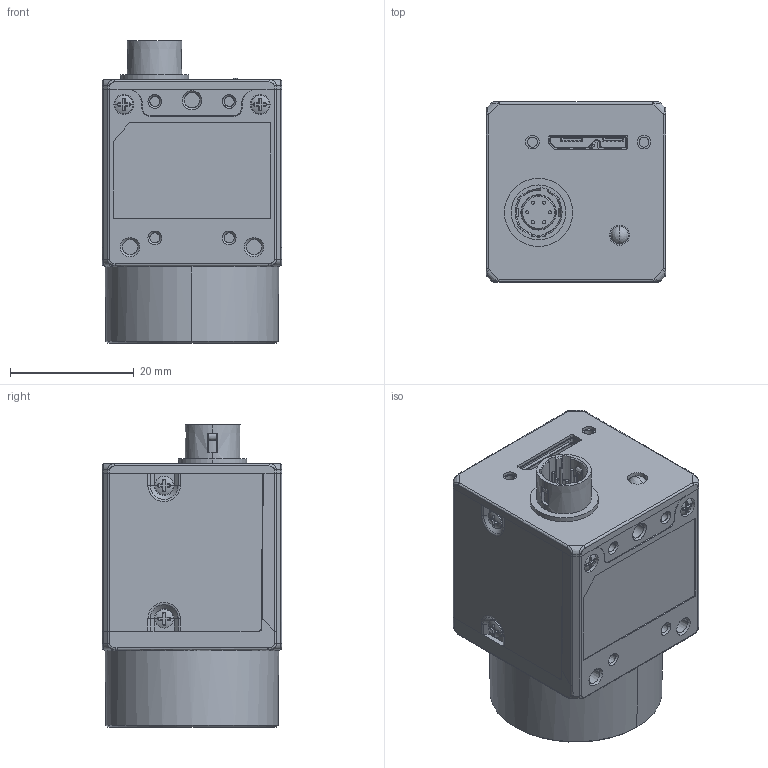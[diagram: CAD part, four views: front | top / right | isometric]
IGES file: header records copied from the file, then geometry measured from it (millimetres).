
Start section:  PTC IGES file: MV-CA003-21UMUC.igs
Global section: file name: MV-CA003-21UMUC.igs; native system: Creo Parametric by PTC Inc.; preprocessor: 2017260; author: wangyijun6; organization: Unknown; date: 20200311.114241; units: millimetre
Bounding box: 29.03 x 29 x 48.81 mm (x, y, z)
Volume: 26608.5 mm3; surface area: 11069.7 mm2
Topology: 1 solids, 13 shells, 1415 faces, 3738 edges, 2383 vertices
Faces by surface type: bspline 745, revolution 670
